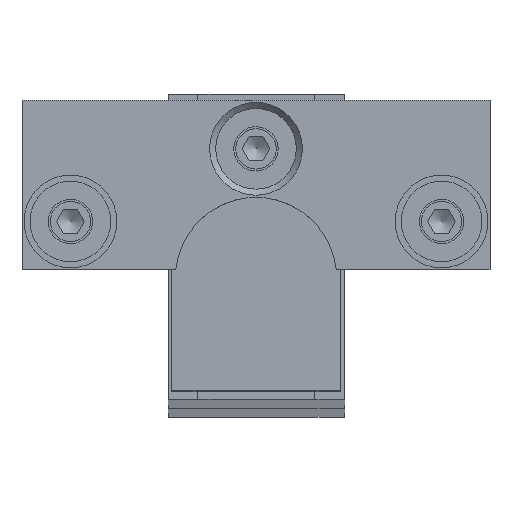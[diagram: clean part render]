
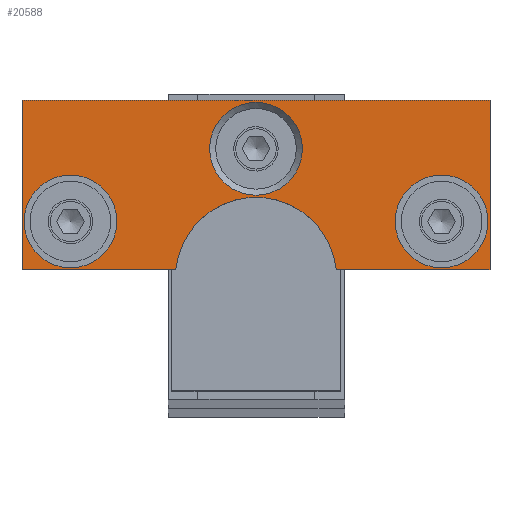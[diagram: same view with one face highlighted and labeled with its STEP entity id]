
A CAD part, top view. The second image highlights one B-rep face of the part: STEP entity #20588.
In plain terms, the highlighted planar face has unit normal (0, 0, 1).
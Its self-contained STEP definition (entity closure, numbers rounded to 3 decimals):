
#283=FACE_BOUND('',#2707,.T.);
#284=FACE_BOUND('',#2708,.T.);
#285=FACE_BOUND('',#2709,.T.);
#583=PLANE('',#22225);
#1499=FACE_OUTER_BOUND('',#2706,.T.);
#2706=EDGE_LOOP('',(#14208,#14209,#14210,#14211,#14212,#14213));
#2707=EDGE_LOOP('',(#14214));
#2708=EDGE_LOOP('',(#14215));
#2709=EDGE_LOOP('',(#14216));
#4265=LINE('',#34918,#5086);
#4266=LINE('',#34920,#5087);
#4267=LINE('',#34922,#5088);
#4268=LINE('',#34926,#5089);
#4269=LINE('',#34927,#5090);
#5086=VECTOR('',#26079,10.);
#5087=VECTOR('',#26080,10.);
#5088=VECTOR('',#26081,10.);
#5089=VECTOR('',#26084,10.);
#5090=VECTOR('',#26085,10.);
#6075=CIRCLE('',#22223,5.75);
#6077=CIRCLE('',#22226,10.);
#6078=CIRCLE('',#22227,5.75);
#6079=CIRCLE('',#22228,5.75);
#8092=VERTEX_POINT('',#34910);
#8094=VERTEX_POINT('',#34916);
#8095=VERTEX_POINT('',#34917);
#8096=VERTEX_POINT('',#34919);
#8097=VERTEX_POINT('',#34921);
#8098=VERTEX_POINT('',#34923);
#8099=VERTEX_POINT('',#34925);
#8100=VERTEX_POINT('',#34928);
#8101=VERTEX_POINT('',#34930);
#10519=EDGE_CURVE('',#8092,#8092,#6075,.T.);
#10522=EDGE_CURVE('',#8094,#8095,#4265,.T.);
#10523=EDGE_CURVE('',#8095,#8096,#4266,.T.);
#10524=EDGE_CURVE('',#8096,#8097,#4267,.T.);
#10525=EDGE_CURVE('',#8097,#8098,#6077,.T.);
#10526=EDGE_CURVE('',#8098,#8099,#4268,.T.);
#10527=EDGE_CURVE('',#8099,#8094,#4269,.T.);
#10528=EDGE_CURVE('',#8100,#8100,#6078,.T.);
#10529=EDGE_CURVE('',#8101,#8101,#6079,.T.);
#14208=ORIENTED_EDGE('',*,*,#10522,.T.);
#14209=ORIENTED_EDGE('',*,*,#10523,.T.);
#14210=ORIENTED_EDGE('',*,*,#10524,.T.);
#14211=ORIENTED_EDGE('',*,*,#10525,.T.);
#14212=ORIENTED_EDGE('',*,*,#10526,.T.);
#14213=ORIENTED_EDGE('',*,*,#10527,.T.);
#14214=ORIENTED_EDGE('',*,*,#10528,.F.);
#14215=ORIENTED_EDGE('',*,*,#10529,.F.);
#14216=ORIENTED_EDGE('',*,*,#10519,.F.);
#20588=ADVANCED_FACE('',(#1499,#283,#284,#285),#583,.T.);
#22223=AXIS2_PLACEMENT_3D('',#34911,#26072,#26073);
#22225=AXIS2_PLACEMENT_3D('',#34915,#26077,#26078);
#22226=AXIS2_PLACEMENT_3D('',#34924,#26082,#26083);
#22227=AXIS2_PLACEMENT_3D('',#34929,#26086,#26087);
#22228=AXIS2_PLACEMENT_3D('',#34931,#26088,#26089);
#26072=DIRECTION('center_axis',(0.,0.,
1.));
#26073=DIRECTION('ref_axis',(-1.,0.,0.));
#26077=DIRECTION('center_axis',(0.,0.,
1.));
#26078=DIRECTION('ref_axis',(1.,0.,0.));
#26079=DIRECTION('',(-1.,0.,0.));
#26080=DIRECTION('',(0.,-1.,0.));
#26081=DIRECTION('',(1.,0.,0.));
#26082=DIRECTION('center_axis',(0.,0.,
-1.));
#26083=DIRECTION('ref_axis',(0.995,0.1,0.));
#26084=DIRECTION('',(1.,0.,0.));
#26085=DIRECTION('',(0.,1.,0.));
#26086=DIRECTION('center_axis',(0.,0.,
1.));
#26087=DIRECTION('ref_axis',(-1.,0.,0.));
#26088=DIRECTION('center_axis',(0.,0.,
1.));
#26089=DIRECTION('ref_axis',(-1.,0.,0.));
#34910=CARTESIAN_POINT('',(39.65,22.,356.));
#34911=CARTESIAN_POINT('Origin',(33.9,22.,356.));
#34915=CARTESIAN_POINT('Origin',(10.9,27.153,356.));
#34916=CARTESIAN_POINT('',(39.9,37.,356.));
#34917=CARTESIAN_POINT('',(-18.1,37.,356.));
#34918=CARTESIAN_POINT('',(-18.1,37.,356.));
#34919=CARTESIAN_POINT('',(-18.1,16.,356.));
#34920=CARTESIAN_POINT('',(-18.1,16.,356.));
#34921=CARTESIAN_POINT('',(0.95,16.,356.));
#34922=CARTESIAN_POINT('',(0.95,16.,356.));
#34923=CARTESIAN_POINT('',(20.85,16.,356.));
#34924=CARTESIAN_POINT('Origin',(10.9,15.,356.));
#34925=CARTESIAN_POINT('',(39.9,16.,356.));
#34926=CARTESIAN_POINT('',(39.9,16.,356.));
#34927=CARTESIAN_POINT('',(39.9,37.,356.));
#34928=CARTESIAN_POINT('',(16.65,31.,356.));
#34929=CARTESIAN_POINT('Origin',(10.9,31.,356.));
#34930=CARTESIAN_POINT('',(-6.35,22.,356.));
#34931=CARTESIAN_POINT('Origin',(-12.1,22.,356.));
